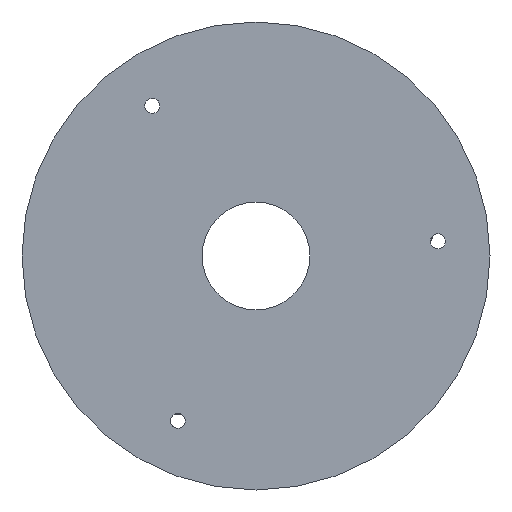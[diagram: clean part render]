
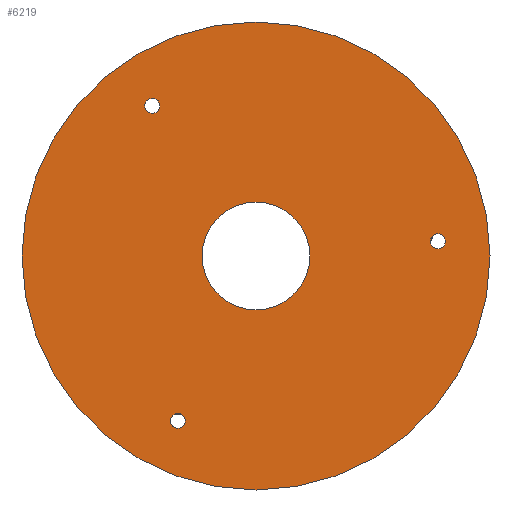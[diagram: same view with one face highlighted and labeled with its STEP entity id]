
A CAD part, front view. The second image highlights one B-rep face of the part: STEP entity #6219.
In plain terms, the highlighted planar face has unit normal (0, -1, 0).
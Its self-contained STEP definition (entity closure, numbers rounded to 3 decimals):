
#308 = CIRCLE ( 'NONE', #6398, 25. ) ;
#456 = AXIS2_PLACEMENT_3D ( 'NONE', #3129, #3128, #3127 ) ;
#735 = EDGE_LOOP ( 'NONE', ( #1739, #1740 ) ) ;
#741 = EDGE_LOOP ( 'NONE', ( #1732, #1734 ) ) ;
#753 = EDGE_LOOP ( 'NONE', ( #1737, #1738 ) ) ;
#1608 = VERTEX_POINT ( 'NONE', #2212 ) ;
#1611 = VERTEX_POINT ( 'NONE', #2204 ) ;
#1613 = VERTEX_POINT ( 'NONE', #2201 ) ;
#1614 = VERTEX_POINT ( 'NONE', #2200 ) ;
#1731 = ORIENTED_EDGE ( 'NONE', *, *, #3291, .F. ) ;
#1732 = ORIENTED_EDGE ( 'NONE', *, *, #3290, .F. ) ;
#1733 = ORIENTED_EDGE ( 'NONE', *, *, #3258, .F. ) ;
#1734 = ORIENTED_EDGE ( 'NONE', *, *, #4727, .F. ) ;
#1735 = ORIENTED_EDGE ( 'NONE', *, *, #4731, .F. ) ;
#1736 = ORIENTED_EDGE ( 'NONE', *, *, #3253, .F. ) ;
#1737 = ORIENTED_EDGE ( 'NONE', *, *, #3261, .F. ) ;
#1738 = ORIENTED_EDGE ( 'NONE', *, *, #3248, .F. ) ;
#1739 = ORIENTED_EDGE ( 'NONE', *, *, #3289, .F. ) ;
#1740 = ORIENTED_EDGE ( 'NONE', *, *, #3244, .F. ) ;
#2200 = CARTESIAN_POINT ( 'NONE',  ( -11.077, 0., 15.248 ) ) ;
#2201 = CARTESIAN_POINT ( 'NONE',  ( -11.077, 0., 16.848 ) ) ;
#2204 = CARTESIAN_POINT ( 'NONE',  ( 0., 0., 5.75 ) ) ;
#2212 = CARTESIAN_POINT ( 'NONE',  ( 0., 0., -5.75 ) ) ;
#2285 = DIRECTION ( 'NONE',  ( 0., 0., -1. ) ) ;
#2286 = DIRECTION ( 'NONE',  ( 0., -1., 0. ) ) ;
#2287 = CARTESIAN_POINT ( 'NONE',  ( -11.077, 0., 16.048 ) ) ;
#2290 = DIRECTION ( 'NONE',  ( 0., 0., -1. ) ) ;
#2291 = DIRECTION ( 'NONE',  ( 0., -1., 0. ) ) ;
#2292 = CARTESIAN_POINT ( 'NONE',  ( 0., 0., 0. ) ) ;
#2293 = DIRECTION ( 'NONE',  ( 0., 0., 1. ) ) ;
#2294 = DIRECTION ( 'NONE',  ( 0., 1., 0. ) ) ;
#2295 = CARTESIAN_POINT ( 'NONE',  ( 0., 0., 0. ) ) ;
#2445 = DIRECTION ( 'NONE',  ( 0., 0., -1. ) ) ;
#2446 = DIRECTION ( 'NONE',  ( 0., -1., 0. ) ) ;
#2447 = CARTESIAN_POINT ( 'NONE',  ( -8.36, 0., -17.617 ) ) ;
#2458 = DIRECTION ( 'NONE',  ( 0., 0., -1. ) ) ;
#2459 = DIRECTION ( 'NONE',  ( 0., -1., 0. ) ) ;
#2461 = CARTESIAN_POINT ( 'NONE',  ( 19.437, 0., 1.569 ) ) ;
#2478 = DIRECTION ( 'NONE',  ( 0., 0., -1. ) ) ;
#2480 = DIRECTION ( 'NONE',  ( 0., -1., 0. ) ) ;
#2481 = CARTESIAN_POINT ( 'NONE',  ( 19.437, 0., 1.569 ) ) ;
#2508 = DIRECTION ( 'NONE',  ( 0., 0., -1. ) ) ;
#2509 = DIRECTION ( 'NONE',  ( 0., -1., 0. ) ) ;
#2518 = CARTESIAN_POINT ( 'NONE',  ( -8.36, 0., -17.617 ) ) ;
#2531 = DIRECTION ( 'NONE',  ( 0., 0., 1. ) ) ;
#2532 = DIRECTION ( 'NONE',  ( 0., 1., 0. ) ) ;
#2533 = CARTESIAN_POINT ( 'NONE',  ( 0., 0., 0. ) ) ;
#3127 = DIRECTION ( 'NONE',  ( 0., 0., 1. ) ) ;
#3128 = DIRECTION ( 'NONE',  ( 0., 1., 0. ) ) ;
#3129 = CARTESIAN_POINT ( 'NONE',  ( 0., 0., 0. ) ) ;
#3130 = PLANE ( 'NONE',  #456 ) ;
#3244 = EDGE_CURVE ( 'NONE', #5464, #5463, #308, .T. ) ;
#3248 = EDGE_CURVE ( 'NONE', #5460, #5459, #6388, .T. ) ;
#3253 = EDGE_CURVE ( 'NONE', #5456, #5455, #6397, .T. ) ;
#3258 = EDGE_CURVE ( 'NONE', #5455, #5456, #7529, .T. ) ;
#3261 = EDGE_CURVE ( 'NONE', #5459, #5460, #7534, .T. ) ;
#3289 = EDGE_CURVE ( 'NONE', #5463, #5464, #7537, .T. ) ;
#3290 = EDGE_CURVE ( 'NONE', #1608, #1611, #7539, .T. ) ;
#3291 = EDGE_CURVE ( 'NONE', #1614, #1613, #7586, .T. ) ;
#4586 = CARTESIAN_POINT ( 'NONE',  ( 0., 0., 25. ) ) ;
#4591 = CARTESIAN_POINT ( 'NONE',  ( 0., 0., -25. ) ) ;
#4607 = CARTESIAN_POINT ( 'NONE',  ( -8.36, 0., -16.817 ) ) ;
#4609 = CARTESIAN_POINT ( 'NONE',  ( -8.36, 0., -18.417 ) ) ;
#4614 = CARTESIAN_POINT ( 'NONE',  ( 19.437, 0., 2.369 ) ) ;
#4616 = CARTESIAN_POINT ( 'NONE',  ( 19.437, 0., 0.769 ) ) ;
#4727 = EDGE_CURVE ( 'NONE', #1611, #1608, #7720, .T. ) ;
#4731 = EDGE_CURVE ( 'NONE', #1613, #1614, #7724, .T. ) ;
#5161 = FACE_BOUND ( 'NONE', #741, .T. ) ;
#5162 = FACE_BOUND ( 'NONE', #7459, .T. ) ;
#5163 = FACE_BOUND ( 'NONE', #7506, .T. ) ;
#5164 = FACE_BOUND ( 'NONE', #753, .T. ) ;
#5165 = FACE_OUTER_BOUND ( 'NONE', #735, .T. ) ;
#5455 = VERTEX_POINT ( 'NONE', #4616 ) ;
#5456 = VERTEX_POINT ( 'NONE', #4614 ) ;
#5459 = VERTEX_POINT ( 'NONE', #4609 ) ;
#5460 = VERTEX_POINT ( 'NONE', #4607 ) ;
#5463 = VERTEX_POINT ( 'NONE', #4591 ) ;
#5464 = VERTEX_POINT ( 'NONE', #4586 ) ;
#6219 = ADVANCED_FACE ( 'NONE', ( #5161, #5162, #5163, #5164, #5165 ), #3130, .F. ) ;
#6388 = CIRCLE ( 'NONE', #6390, 0.8 ) ;
#6390 = AXIS2_PLACEMENT_3D ( 'NONE', #2518, #2509, #2508 ) ;
#6392 = AXIS2_PLACEMENT_3D ( 'NONE', #2481, #2480, #2478 ) ;
#6397 = CIRCLE ( 'NONE', #6392, 0.8 ) ;
#6398 = AXIS2_PLACEMENT_3D ( 'NONE', #2533, #2532, #2531 ) ;
#6572 = DIRECTION ( 'NONE',  ( 0., 0., -1. ) ) ;
#6573 = DIRECTION ( 'NONE',  ( 0., -1., 0. ) ) ;
#6574 = CARTESIAN_POINT ( 'NONE',  ( -11.077, 0., 16.048 ) ) ;
#6587 = DIRECTION ( 'NONE',  ( 0., 0., -1. ) ) ;
#6588 = DIRECTION ( 'NONE',  ( 0., -1., 0. ) ) ;
#6590 = CARTESIAN_POINT ( 'NONE',  ( 0., 0., 0. ) ) ;
#7459 = EDGE_LOOP ( 'NONE', ( #1731, #1735 ) ) ;
#7506 = EDGE_LOOP ( 'NONE', ( #1733, #1736 ) ) ;
#7529 = CIRCLE ( 'NONE', #7535, 0.8 ) ;
#7534 = CIRCLE ( 'NONE', #7540, 0.8 ) ;
#7535 = AXIS2_PLACEMENT_3D ( 'NONE', #2461, #2459, #2458 ) ;
#7537 = CIRCLE ( 'NONE', #7583, 25. ) ;
#7539 = CIRCLE ( 'NONE', #7585, 5.75 ) ;
#7540 = AXIS2_PLACEMENT_3D ( 'NONE', #2447, #2446, #2445 ) ;
#7583 = AXIS2_PLACEMENT_3D ( 'NONE', #2295, #2294, #2293 ) ;
#7585 = AXIS2_PLACEMENT_3D ( 'NONE', #2292, #2291, #2290 ) ;
#7586 = CIRCLE ( 'NONE', #7587, 0.8 ) ;
#7587 = AXIS2_PLACEMENT_3D ( 'NONE', #2287, #2286, #2285 ) ;
#7720 = CIRCLE ( 'NONE', #7725, 5.75 ) ;
#7724 = CIRCLE ( 'NONE', #7730, 0.8 ) ;
#7725 = AXIS2_PLACEMENT_3D ( 'NONE', #6590, #6588, #6587 ) ;
#7730 = AXIS2_PLACEMENT_3D ( 'NONE', #6574, #6573, #6572 ) ;
